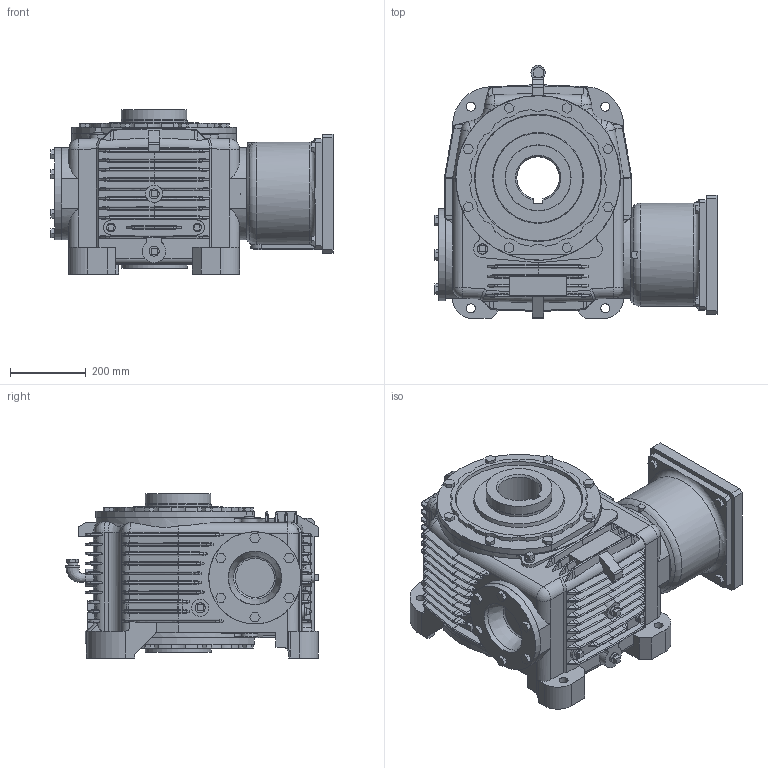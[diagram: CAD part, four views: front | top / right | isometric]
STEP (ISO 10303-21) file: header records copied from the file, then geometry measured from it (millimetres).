
FILE_DESCRIPTION(/* description */ ('Unknown'),/* implementation_level */ '2;1');
FILE_NAME(/* name */ 'V80CV-7AD01SBD-',/* time_stamp */ '2024-11-21T16:20:06-05:00',/* author */ ('Unknown'),/* organization */ ('Unknown'),/* preprocessor_version */ 'ST-DEVELOPER v19.4',/* originating_system */ 'Solid Edge',/* authorisation */ 'Unknown');
FILE_SCHEMA (('AUTOMOTIVE_DESIGN {1 0 10303 214 3 1 1}'));
Products named in the file (8): V80CV-7AD01SBD-; 80-5-CP; 80-OUTHS-4437; 80-OUTH-4437; 80-WCAP; 80-SM20-4-CP; MP5D-01-CP; KM900-S-48
Assembly tree (7 placements, depth 2):
  V80CV-7AD01SBD-
    80-5-CP
    80-OUTHS-4437
    80-OUTH-4437
    80-WCAP
    80-SM20-4-CP
    MP5D-01-CP
    KM900-S-48
Bounding box: 746.43 x 669.4 x 434.72 mm (x, y, z)
Volume: 87449204.2 mm3; surface area: 4323363.5 mm2
Topology: 7 solids, 8 shells, 1718 faces, 4179 edges, 2574 vertices
Faces by surface type: plane 907, bspline 563, cylinder 226, cone 12, sphere 6, torus 4
Full cylindrical faces by diameter (mm): 0.254 x5, 13.835 x4, 15.875 x8, 22.225 x2, 23.812 x10, 26.924 x6, 38.1 x1, 45.72 x4, 48 x1, 50.787 x1, 50.8 x1, 53.975 x1, 105.2 x1, 106.68 x1, 133 x1, 154 x1, 173.863 x1, 174.625 x4, 175.133 x2, 177.8 x2, 177.825 x2, 178.308 x2, 178.333 x1, 243.84 x1, 250 x1, 254 x1, 269.875 x2, 435.61 x2
Entity records: 62116 total; most frequent: CARTESIAN_POINT 22646, ORIENTED_EDGE 8144, DIRECTION 6508, EDGE_CURVE 4072, VERTEX_POINT 2552, LINE 2464, VECTOR 2464, AXIS2_PLACEMENT_3D 2022
